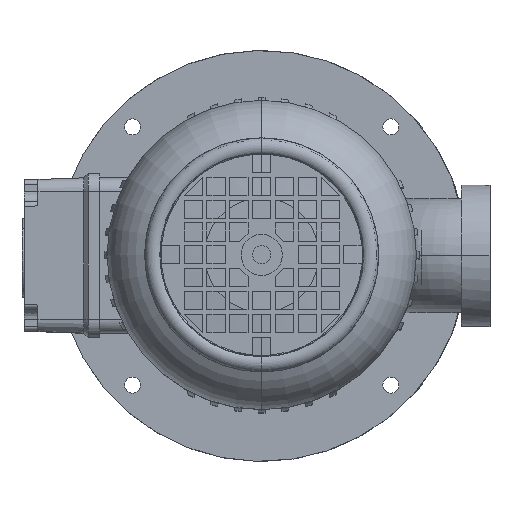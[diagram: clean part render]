
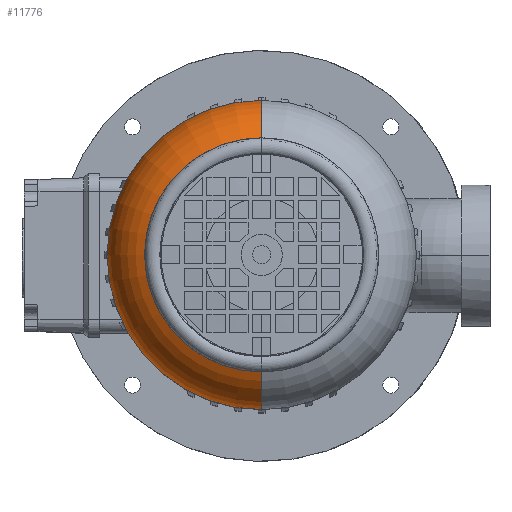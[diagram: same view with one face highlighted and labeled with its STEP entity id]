
A CAD part, top view. The second image highlights one B-rep face of the part: STEP entity #11776.
In plain terms, the highlighted toroidal (fillet/blend) face has major radius 39.75 mm and minor radius 28 mm.
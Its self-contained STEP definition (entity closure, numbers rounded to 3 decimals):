
#5268=EDGE_CURVE('',#14778,#13406,#15273,.T.);
#5906=VERTEX_POINT('',#15976);
#9508=EDGE_CURVE('',#14538,#5906,#19986,.T.);
#11776=ADVANCED_FACE('',(#22469),#22470,.T.);
#13406=VERTEX_POINT('',#24281);
#13508=EDGE_CURVE('',#14538,#13406,#24395,.T.);
#14098=EDGE_CURVE('',#5906,#14778,#25041,.T.);
#14538=VERTEX_POINT('',#25514);
#14778=VERTEX_POINT('',#25783);
#15273=CIRCLE('',#26570,28.);
#15976=CARTESIAN_POINT('',(0.,-67.75,196.));
#19986=CIRCLE('',#36506,28.);
#22469=FACE_OUTER_BOUND('',#41771,.T.);
#22470=TOROIDAL_SURFACE('',#41772,39.75,28.);
#24281=CARTESIAN_POINT('',(0.0,51.25,221.529));
#24395=CIRCLE('',#45776,51.25);
#25041=CIRCLE('',#47168,67.75);
#25514=CARTESIAN_POINT('',(0.,-51.25,221.529));
#25783=CARTESIAN_POINT('',(0.0,67.75,196.));
#26570=AXIS2_PLACEMENT_3D('',#49568,#49569,#49570);
#36506=AXIS2_PLACEMENT_3D('',#54940,#54941,#54942);
#41771=EDGE_LOOP('',(#57613,#57614,#57615,#57616));
#41772=AXIS2_PLACEMENT_3D('',#57617,#57618,#57619);
#45776=AXIS2_PLACEMENT_3D('',#59748,#59749,#59750);
#47168=AXIS2_PLACEMENT_3D('',#60441,#60442,#60443);
#49568=CARTESIAN_POINT('',(0.,39.75,196.));
#49569=DIRECTION('',(1.0,0.,0.0));
#49570=DIRECTION('',(0.,1.0,0.0));
#54940=CARTESIAN_POINT('',(0.,-39.75,196.));
#54941=DIRECTION('',(1.0,0.,0.0));
#54942=DIRECTION('',(0.,-1.0,-0.0));
#57613=ORIENTED_EDGE('',*,*,#9508,.F.);
#57614=ORIENTED_EDGE('',*,*,#13508,.T.);
#57615=ORIENTED_EDGE('',*,*,#5268,.F.);
#57616=ORIENTED_EDGE('',*,*,#14098,.F.);
#57617=CARTESIAN_POINT('',(0.0,0.0,196.));
#57618=DIRECTION('',(0.0,0.0,-1.0));
#57619=DIRECTION('',(0.0,-1.0,0.0));
#59748=CARTESIAN_POINT('',(0.0,0.0,221.529));
#59749=DIRECTION('',(0.0,0.0,-1.0));
#59750=DIRECTION('',(0.0,1.0,0.0));
#60441=CARTESIAN_POINT('',(0.0,0.0,196.));
#60442=DIRECTION('',(0.0,0.0,-1.0));
#60443=DIRECTION('',(0.0,1.0,0.0));
